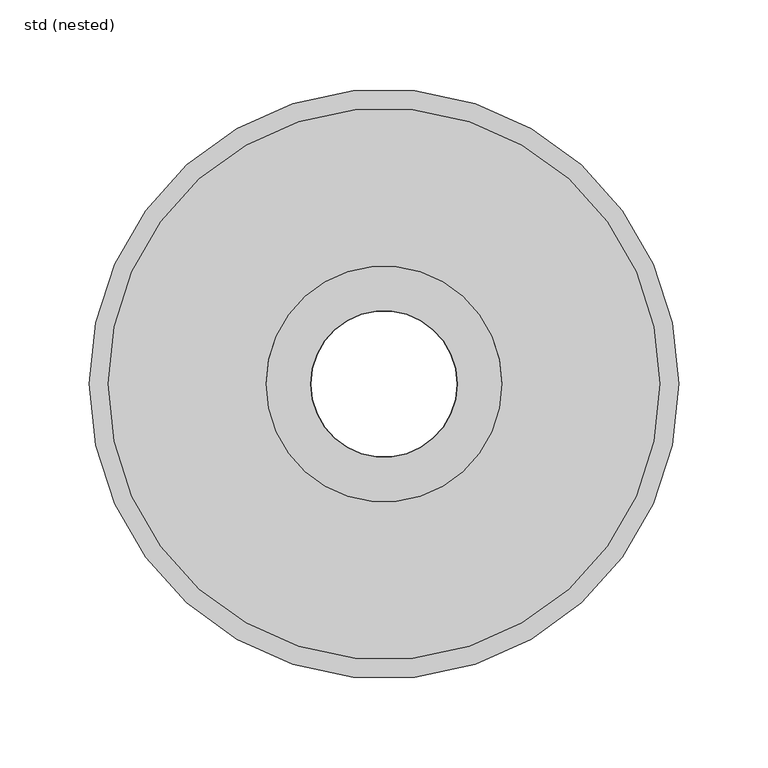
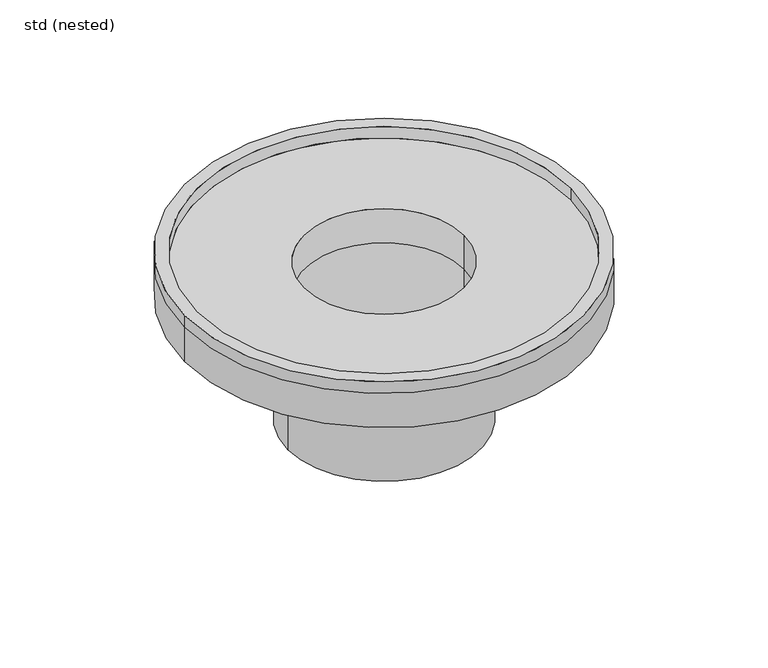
"""IFC4 building model written with IfcOpenShell, lengths in millimetres: sanitary terminal geometry, ZZZ_do not use_PF_GEN_fit-in for Passavant Spin_ACO : std (nested)."""

from ifc_helpers import new_model, si_unit, frame, origin, origin_with_axes, place, context, project, spatial, polyline, circle_curve, source, transform, mapped, element, save
from ifc_brep_helpers import plane_surface, cylinder_surface, revolved_surface, advanced_brep


def std_nested_46976476(model_context):
    return source(origin(), model_context, "Body", "AdvancedBrep", [
        advanced_brep(
        [(-79.5, 0.0, -147.0), (79.5, 0.0, -147.0), (41.0, 0.0, -147.0), (-41.0, 0.0, -147.0), (-79.5, 0.0, -41.5), (79.5, 0.0, -41.5), (-105.0, 0.0, -41.5), (105.0, 0.0, -41.5), (-105.0, 0.0, -40.0), (105.0, 0.0, -40.0), (-78.0, 0.0, -40.0), (78.0, 0.0, -40.0), (-78.0, 0.0, -145.5), (78.0, 0.0, -145.5), (-41.0, 0.0, -145.5), (41.0, 0.0, -145.5)],
        [
            (0, 1, circle_curve(frame((0.0, 0.0, -147.0), z_axis=(0.0, 0.0, -1.0), x_axis=(1.0, 0.0, 0.0)), 79.5)),
            (1, 2),
            (2, 3, circle_curve(frame((0.0, 0.0, -147.0), z_axis=(0.0, 0.0, 1.0), x_axis=(1.0, 0.0, 0.0)), 41.0)),
            (3, 0),
            (1, 0, circle_curve(frame((0.0, 0.0, -147.0), z_axis=(0.0, 0.0, -1.0), x_axis=(1.0, 0.0, 0.0)), 79.5)),
            (3, 2, circle_curve(frame((0.0, 0.0, -147.0), z_axis=(0.0, 0.0, 1.0), x_axis=(1.0, 0.0, 0.0)), 41.0)),
            (4, 5, circle_curve(frame((0.0, 0.0, -41.5), z_axis=(0.0, 0.0, -1.0), x_axis=(1.0, 0.0, 0.0)), 79.5)),
            (5, 1),
            (0, 4),
            (5, 4, circle_curve(frame((0.0, 0.0, -41.5), z_axis=(0.0, 0.0, -1.0), x_axis=(1.0, 0.0, 0.0)), 79.5)),
            (6, 7, circle_curve(frame((0.0, 0.0, -41.5), z_axis=(0.0, 0.0, -1.0), x_axis=(1.0, 0.0, 0.0)), 105.0)),
            (7, 5),
            (4, 6),
            (7, 6, circle_curve(frame((0.0, 0.0, -41.5), z_axis=(0.0, 0.0, -1.0), x_axis=(1.0, 0.0, 0.0)), 105.0)),
            (8, 9, circle_curve(frame((0.0, 0.0, -40.0), z_axis=(0.0, 0.0, -1.0), x_axis=(1.0, 0.0, 0.0)), 105.0)),
            (9, 7),
            (6, 8),
            (9, 8, circle_curve(frame((0.0, 0.0, -40.0), z_axis=(0.0, 0.0, -1.0), x_axis=(1.0, 0.0, 0.0)), 105.0)),
            (10, 11, circle_curve(frame((0.0, 0.0, -40.0), z_axis=(0.0, 0.0, -1.0), x_axis=(1.0, 0.0, 0.0)), 78.0)),
            (11, 9),
            (8, 10),
            (11, 10, circle_curve(frame((0.0, 0.0, -40.0), z_axis=(0.0, 0.0, -1.0), x_axis=(1.0, 0.0, 0.0)), 78.0)),
            (12, 13, circle_curve(frame((0.0, 0.0, -145.5), z_axis=(0.0, 0.0, -1.0), x_axis=(1.0, 0.0, 0.0)), 78.0)),
            (13, 11),
            (10, 12),
            (13, 12, circle_curve(frame((0.0, 0.0, -145.5), z_axis=(0.0, 0.0, -1.0), x_axis=(1.0, 0.0, 0.0)), 78.0)),
            (14, 15, circle_curve(frame((0.0, 0.0, -145.5), z_axis=(0.0, 0.0, -1.0), x_axis=(1.0, 0.0, 0.0)), 41.0)),
            (15, 13),
            (12, 14),
            (15, 14, circle_curve(frame((0.0, 0.0, -145.5), z_axis=(0.0, 0.0, -1.0), x_axis=(1.0, 0.0, 0.0)), 41.0)),
            (2, 15),
            (14, 3),
        ],
        [
            plane_surface(frame((0.0, 0.0, -147.0), z_axis=(0.0, 0.0, -1.0), x_axis=(1.0, 0.0, 0.0))),
            cylinder_surface(frame((0.0, 0.0, 35.0), z_axis=(0.0, 0.0, 1.0), x_axis=(1.0, 0.0, 0.0)), 79.5),
            plane_surface(frame((0.0, 0.0, -41.5), z_axis=(0.0, 0.0, -1.0), x_axis=(1.0, 0.0, 0.0))),
            cylinder_surface(frame((0.0, 0.0, 35.0), z_axis=(0.0, 0.0, 1.0), x_axis=(1.0, 0.0, 0.0)), 105.0),
            plane_surface(frame((0.0, 0.0, -40.0), z_axis=(0.0, 0.0, 1.0), x_axis=(1.0, 0.0, 0.0))),
            revolved_surface(polyline([(78.0, 0.0, -40.0), (78.0, 0.0, -145.5)]), (0.0, 0.0, 35.0), (0.0, 0.0, 1.0)),
            plane_surface(frame((0.0, 0.0, -145.5), z_axis=(0.0, 0.0, 1.0), x_axis=(1.0, 0.0, 0.0))),
            revolved_surface(polyline([(41.0, 0.0, -145.5), (41.0, 0.0, -147.0)]), (0.0, 0.0, 35.0), (0.0, 0.0, 1.0)),
        ],
        [
            (0, [[1, 2, 3, 4]]),
            (0, [[5, -4, 6, -2]]),
            (1, [[7, 8, -1, 9]]),
            (1, [[10, -9, -5, -8]]),
            (2, [[11, 12, -7, 13]]),
            (2, [[14, -13, -10, -12]]),
            (3, [[15, 16, -11, 17]]),
            (3, [[18, -17, -14, -16]]),
            (4, [[19, 20, -15, 21]]),
            (4, [[22, -21, -18, -20]]),
            (5, [[23, 24, -19, 25]]),
            (5, [[26, -25, -22, -24]]),
            (6, [[27, 28, -23, 29]]),
            (6, [[30, -29, -26, -28]]),
            (7, [[-3, 31, -27, 32]]),
            (7, [[-6, -32, -30, -31]]),
        ],
    ),
        advanced_brep(
        [(-75.75, 0.0, -144.0), (75.75, 0.0, -144.0), (-41.0, 0.0, -144.0), (41.0, 0.0, -144.0), (66.0, 0.0, -124.5), (-66.0, 0.0, -124.5), (-41.0, 0.0, -124.5), (41.0, 0.0, -124.5), (75.75, 0.0, -135.0), (75.75, 0.0, -124.5), (-75.75, 0.0, -124.5), (-75.75, 0.0, -135.0), (-75.75, 0.0, -40.0), (75.75, 0.0, -40.0), (-66.0, 0.0, -40.0), (66.0, 0.0, -40.0), (-165.0, 0.0, 0.0), (165.0, 0.0, 0.0), (-154.5, 0.0, 0.0), (154.5, 0.0, 0.0), (-165.0, 0.0, -10.0), (165.0, 0.0, -10.0), (-154.5, 0.0, -10.0), (154.5, 0.0, -10.0), (-165.0, 0.0, -40.0), (165.0, 0.0, -40.0), (-66.0, 0.0, -10.0), (66.0, 0.0, -10.0)],
        [
            (0, 1, circle_curve(frame((0.0, 0.0, -144.0), z_axis=(0.0, 0.0, -1.0), x_axis=(1.0, 0.0, 0.0)), 75.75)),
            (1, 0, circle_curve(frame((0.0, 0.0, -144.0), z_axis=(0.0, 0.0, -1.0), x_axis=(1.0, 0.0, 0.0)), 75.75)),
            (2, 3, circle_curve(frame((0.0, 0.0, -144.0), z_axis=(0.0, 0.0, 1.0), x_axis=(1.0, 0.0, 0.0)), 41.0)),
            (3, 2, circle_curve(frame((0.0, 0.0, -144.0), z_axis=(0.0, 0.0, 1.0), x_axis=(1.0, 0.0, 0.0)), 41.0)),
            (4, 5, circle_curve(frame((0.0, 0.0, -124.5), z_axis=(0.0, 0.0, 1.0), x_axis=(1.0, 0.0, 0.0)), 66.0)),
            (5, 4, circle_curve(frame((0.0, 0.0, -124.5), z_axis=(0.0, 0.0, 1.0), x_axis=(1.0, 0.0, 0.0)), 66.0)),
            (6, 7, circle_curve(frame((0.0, 0.0, -124.5), z_axis=(0.0, 0.0, -1.0), x_axis=(1.0, 0.0, 0.0)), 41.0)),
            (7, 6, circle_curve(frame((0.0, 0.0, -124.5), z_axis=(0.0, 0.0, -1.0), x_axis=(1.0, 0.0, 0.0)), 41.0)),
            (1, 8),
            (8, 9),
            (9, 10, circle_curve(frame((0.0, 0.0, -124.5), z_axis=(0.0, 0.0, -1.0), x_axis=(1.0, 0.0, 0.0)), 75.75)),
            (10, 11),
            (11, 0),
            (10, 9, circle_curve(frame((0.0, 0.0, -124.5), z_axis=(0.0, 0.0, -1.0), x_axis=(1.0, 0.0, 0.0)), 75.75)),
            (3, 7),
            (6, 2),
            (12, 10),
            (9, 13),
            (13, 12, circle_curve(frame((0.0, 0.0, -40.0), z_axis=(0.0, 0.0, -1.0), x_axis=(1.0, 0.0, 0.0)), 75.75)),
            (12, 13, circle_curve(frame((0.0, 0.0, -40.0), z_axis=(0.0, 0.0, -1.0), x_axis=(1.0, 0.0, 0.0)), 75.75)),
            (14, 5),
            (4, 15),
            (15, 14, circle_curve(frame((0.0, 0.0, -40.0), z_axis=(0.0, 0.0, 1.0), x_axis=(1.0, 0.0, 0.0)), 66.0)),
            (14, 15, circle_curve(frame((0.0, 0.0, -40.0), z_axis=(0.0, 0.0, 1.0), x_axis=(1.0, 0.0, 0.0)), 66.0)),
            (16, 17, circle_curve(origin_with_axes(), 165.0)),
            (17, 16, circle_curve(origin_with_axes(), 165.0)),
            (18, 19, circle_curve(frame((0.0, 0.0, 0.0), z_axis=(0.0, 0.0, -1.0), x_axis=(1.0, 0.0, 0.0)), 154.5)),
            (19, 18, circle_curve(frame((0.0, 0.0, 0.0), z_axis=(0.0, 0.0, -1.0), x_axis=(1.0, 0.0, 0.0)), 154.5)),
            (16, 20),
            (20, 21, circle_curve(frame((0.0, 0.0, -10.0), z_axis=(0.0, 0.0, 1.0), x_axis=(1.0, 0.0, 0.0)), 165.0)),
            (21, 17),
            (21, 20, circle_curve(frame((0.0, 0.0, -10.0), z_axis=(0.0, 0.0, 1.0), x_axis=(1.0, 0.0, 0.0)), 165.0)),
            (18, 22),
            (22, 23, circle_curve(frame((0.0, 0.0, -10.0), z_axis=(0.0, 0.0, -1.0), x_axis=(1.0, 0.0, 0.0)), 154.5)),
            (23, 19),
            (23, 22, circle_curve(frame((0.0, 0.0, -10.0), z_axis=(0.0, 0.0, -1.0), x_axis=(1.0, 0.0, 0.0)), 154.5)),
            (24, 25, circle_curve(frame((0.0, 0.0, -40.0), z_axis=(0.0, 0.0, -1.0), x_axis=(1.0, 0.0, 0.0)), 165.0)),
            (25, 24, circle_curve(frame((0.0, 0.0, -40.0), z_axis=(0.0, 0.0, -1.0), x_axis=(1.0, 0.0, 0.0)), 165.0)),
            (26, 27, circle_curve(frame((0.0, 0.0, -10.0), z_axis=(0.0, 0.0, -1.0), x_axis=(1.0, 0.0, 0.0)), 66.0)),
            (27, 26, circle_curve(frame((0.0, 0.0, -10.0), z_axis=(0.0, 0.0, -1.0), x_axis=(1.0, 0.0, 0.0)), 66.0)),
            (25, 21),
            (20, 24),
            (26, 14),
            (15, 27),
        ],
        [
            plane_surface(frame((75.75, 0.0, -144.0), z_axis=(0.0, 0.0, -1.0), x_axis=(0.0, -1.0, 0.0))),
            plane_surface(frame((75.75, 0.0, -124.5), z_axis=(0.0, 0.0, 1.0), x_axis=(0.0, 1.0, 0.0))),
            cylinder_surface(frame((0.0, 0.0, -144.0), z_axis=(0.0, 0.0, 1.0), x_axis=(1.0, 0.0, 0.0)), 75.75),
            revolved_surface(polyline([(41.0, 0.0, -144.0), (41.0, 0.0, -124.5)]), (0.0, 0.0, 0.0), (0.0, 0.0, -1.0)),
            cylinder_surface(frame((0.0, 0.0, -135.0), z_axis=(0.0, 0.0, 1.0), x_axis=(1.0, 0.0, 0.0)), 75.75),
            revolved_surface(polyline([(66.0, 0.0, -124.5), (66.0, 0.0, -40.0)]), (0.0, 0.0, 0.0), (0.0, 0.0, -1.0)),
            plane_surface(frame((165.0, 0.0, 0.0), z_axis=(0.0, 0.0, 1.0), x_axis=(0.0, 1.0, 0.0))),
            cylinder_surface(frame((0.0, 0.0, -10.0), z_axis=(0.0, 0.0, 1.0), x_axis=(1.0, 0.0, 0.0)), 165.0),
            revolved_surface(polyline([(154.5, 0.0, -10.0), (154.5, 0.0, 0.0)]), (0.0, 0.0, 0.0), (0.0, 0.0, -1.0)),
            plane_surface(frame((165.0, 0.0, -40.0), z_axis=(0.0, 0.0, -1.0), x_axis=(0.0, -1.0, 0.0))),
            plane_surface(frame((165.0, 0.0, -10.0), z_axis=(0.0, 0.0, 1.0), x_axis=(0.0, 1.0, 0.0))),
            cylinder_surface(frame((0.0, 0.0, -40.0), z_axis=(0.0, 0.0, 1.0), x_axis=(1.0, 0.0, 0.0)), 165.0),
            revolved_surface(polyline([(66.0, 0.0, -40.0), (66.0, 0.0, -10.0)]), (0.0, 0.0, 0.0), (0.0, 0.0, -1.0)),
        ],
        [
            (0, [[1, 2], [3, 4]]),
            (1, [[5, 6], [7, 8]]),
            (2, [[-2, 9, 10, 11, 12, 13]]),
            (2, [[-1, -13, -12, 14, -10, -9]]),
            (3, [[-4, 15, -7, 16]]),
            (3, [[-3, -16, -8, -15]]),
            (4, [[17, -11, 18, 19]]),
            (4, [[-17, 20, -18, -14]]),
            (5, [[21, -5, 22, 23]]),
            (5, [[-21, 24, -22, -6]]),
            (6, [[25, 26], [27, 28]]),
            (7, [[-25, 29, 30, 31]]),
            (7, [[-26, -31, 32, -29]]),
            (8, [[-27, 33, 34, 35]]),
            (8, [[-28, -35, 36, -33]]),
            (9, [[37, 38], [-19, -20]]),
            (10, [[-34, -36], [39, 40]]),
            (11, [[-38, 41, -30, 42]]),
            (11, [[-37, -42, -32, -41]]),
            (12, [[-39, 43, -23, 44]]),
            (12, [[-40, -44, -24, -43]]),
        ],
    ),
    ])


if __name__ == "__main__":
    model = new_model("IFC4")
    model_context = context("Model", 3, world=origin())
    ifc_project = project(units=[si_unit("LENGTHUNIT", "METRE", prefix="MILLI")], contexts=[model_context])
    site = spatial("IfcSite", under=ifc_project)
    building = spatial("IfcBuilding", under=site)
    placement = place(None, origin())
    std_nested_shape = std_nested_46976476(model_context)
    element("IfcSanitaryTerminal", 1, ObjectType="ZZZ_do not use_PF_GEN_fit-in for Passavant Spin_ACO : std (nested)", at=placement, inside=building, context=model_context, shape_type="MappedRepresentation", body=[
        mapped(std_nested_shape, transform((0.0, 0.0, 0.0), x_axis=(1.0, 0.0, 0.0), y_axis=(0.0, 1.0, 0.0), z_axis=(0.0, 0.0, 1.0))),
    ])
    save(model, "model.ifc")
